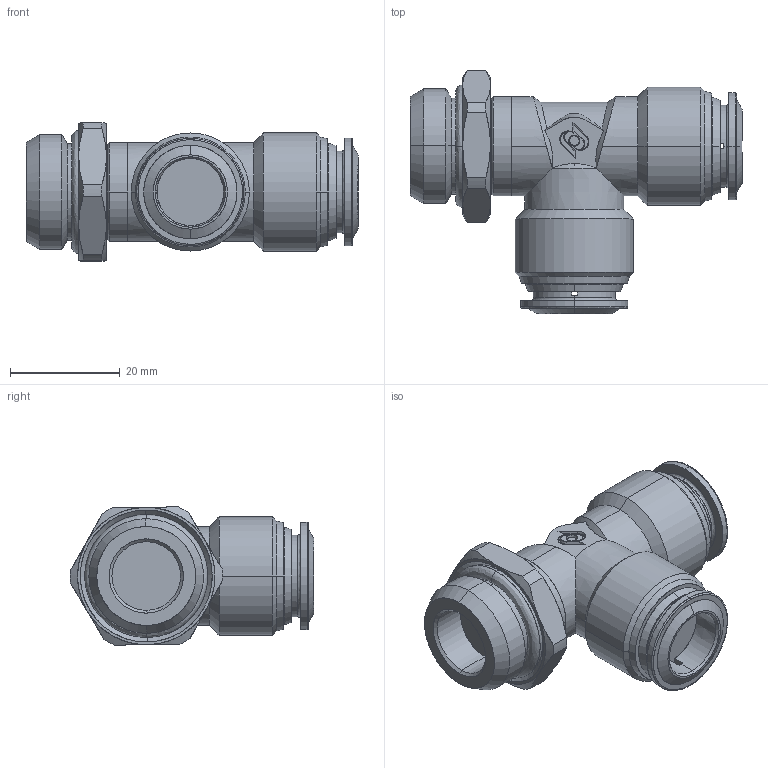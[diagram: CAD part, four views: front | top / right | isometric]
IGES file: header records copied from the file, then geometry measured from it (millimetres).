
Start section: SolidWorks IGES file using analytic representation for surfaces
Global section: file name: K:\Disegni Esecutivi\Serie 57000\ASSIEMI_57000\57226\ASSIEMI_PIENI_57226\5722600018.IGS; native system: SolidWorks 2008; preprocessor: SolidWorks 2008; author: cad02; date: 080211.165001; units: millimetre
Bounding box: 60.4 x 44.35 x 25.16 mm (x, y, z)
Surface area: 8596.9 mm2 (no closed solid volume)
Topology: 0 solids, 0 shells, 216 faces, 3004 edges, 3004 vertices
Faces by surface type: revolution 118, bspline 98
